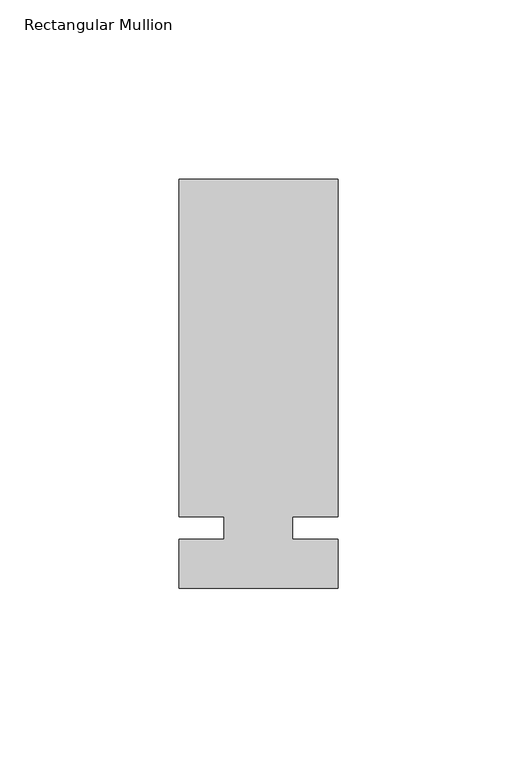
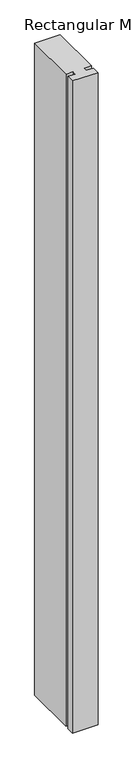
"""IFC4 building model written with IfcOpenShell, lengths in millimetres: member geometry, Rectangular Mullion : Kawneer-TRIFAB_VG_450_BACK_SB_Vertical."""

from ifc_helpers import new_model, si_unit, frame, origin, place, context, project, spatial, polyline, outline, extrude, source, transform, mapped, element, save


def rectangular_mullion_d111657e(model_context):
    return source(origin(), model_context, "Body", "SweptSolid", [
        extrude(outline(polyline([(22.225, -16.8532346), (-22.225, -16.8532346), (-22.225, -3.175), (-9.525, -3.175), (-9.525, 3.175), (-22.225, 3.175), (-22.225, 97.4467654), (22.225, 97.4467654), (22.225, 3.175), (9.5232296, 3.175), (9.5232296, -3.175), (22.225, -3.175), (22.225, -16.8532346)])), frame((0.0, 0.0, -1201.3094027), z_axis=(0.0, 0.0, 1.0), x_axis=(1.0, 0.0, 0.0)), (0.0, 0.0, 1.0), 1201.3094027),
    ])


if __name__ == "__main__":
    model = new_model("IFC4")
    model_context = context("Model", 3, world=origin())
    ifc_project = project(units=[si_unit("LENGTHUNIT", "METRE", prefix="MILLI")], contexts=[model_context])
    site = spatial("IfcSite", under=ifc_project)
    building = spatial("IfcBuilding", under=site)
    placement = place(None, origin())
    rectangular_mullion_shape = rectangular_mullion_d111657e(model_context)
    element("IfcMember", 1, ObjectType="Rectangular Mullion : Kawneer-TRIFAB_VG_450_BACK_SB_Vertical", at=placement, inside=building, context=model_context, shape_type="MappedRepresentation", body=[
        mapped(rectangular_mullion_shape, transform((0.0, 0.0, 0.0), x_axis=(1.0, 0.0, 0.0), y_axis=(0.0, 1.0, 0.0), z_axis=(0.0, 0.0, 1.0))),
    ])
    save(model, "model.ifc")
